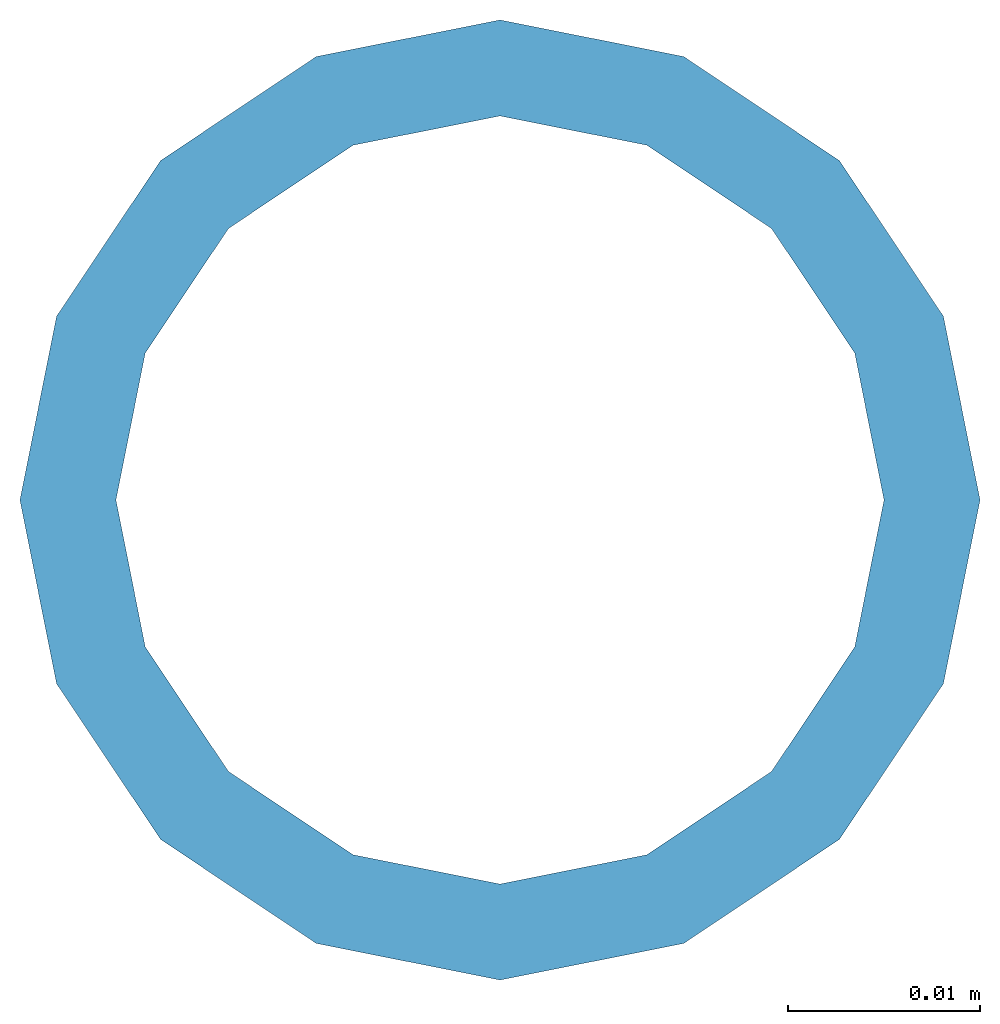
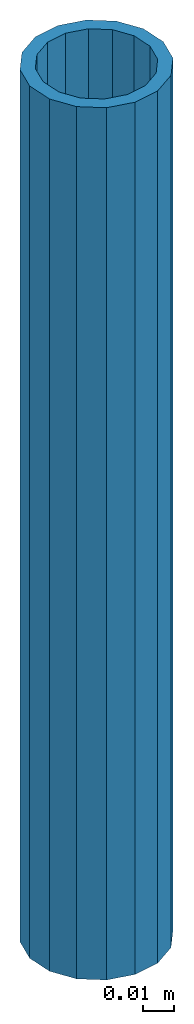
# One storey: 1 column.
"""IFC2X3 building model written with IfcOpenShell, lengths in millimetres."""

import ifcopenshell
import ifcopenshell.guid

model = None  # the IFC model being written
_history = None  # IfcOwnerHistory: only IFC2X3 demands one
_inside = {}  # id of a spatial element -> (the spatial element, [elements in it])
_under = {}  # id of a project, library or spatial element -> (it, [spatial elements below it])
_declared = {}  # id of a project -> (the project, [libraries it declares])
_typed = {}  # id of a type object -> (the type object, [elements of that type])
_made_of = {}  # id of a material, layer set ... -> (it, [elements and type objects made of it])


def new_model(schema):
    """Start an empty IFC model of exactly this schema.

    Asked for "IFC4X3", IfcOpenShell would pick the latest addendum, in which some entities
    have other attributes; the version numbers below select the first issue.
    IFC2X3 requires an IfcOwnerHistory on every rooted entity: one is made here for all.
    """
    global model, _history
    if schema == "IFC4X3":
        model = ifcopenshell.file(schema_version=(4, 3, 0, 0))
    else:
        model = ifcopenshell.file(schema=schema)
    _inside.clear()
    _under.clear()
    _declared.clear()
    _typed.clear()
    _made_of.clear()
    _history = None
    if model.schema == "IFC2X3":
        org = make("IfcOrganization", Name="unknown")
        user = make(
            "IfcPersonAndOrganization",
            ThePerson=make("IfcPerson", FamilyName="unknown"),
            TheOrganization=org,
        )
        app = make(
            "IfcApplication",
            ApplicationDeveloper=org,
            Version="unknown",
            ApplicationFullName="unknown",
            ApplicationIdentifier="unknown",
        )
        _history = make(
            "IfcOwnerHistory",
            OwningUser=user,
            OwningApplication=app,
            ChangeAction="ADDED",
            CreationDate=0,
        )
    return model


def make(cls, **values):
    """One entity of the class cls with the attributes given. An attribute that is None is left unset."""
    return model.create_entity(
        cls, **{name: value for name, value in values.items() if value is not None}
    )


def entity(cls, *values):
    """Any entity or typed value of the class cls, its attributes in the order of the schema. None: left unset."""
    e = model.create_entity(cls)
    for i, value in enumerate(values):
        if value is not None:
            e[i] = value
    return e


def rooted(cls, **values):
    """An entity with a GlobalId (a new one), such as an element, a storey or a relation."""
    return make(cls, GlobalId=ifcopenshell.guid.new(), OwnerHistory=_history, **values)


def si_unit(unit_type, name, prefix=None):
    """IfcSIUnit, for example si_unit("LENGTHUNIT", "METRE", prefix="MILLI")."""
    return make("IfcSIUnit", UnitType=unit_type, Prefix=prefix, Name=name)


def converted_unit(unit_type, name, factor, base, dimensions=None, offset=None):
    """IfcConversionBasedUnit, such as the inch: factor (a typed value) times the base unit."""
    return make(
        "IfcConversionBasedUnit"
        if offset is None
        else "IfcConversionBasedUnitWithOffset",
        ConversionOffset=offset,
        Dimensions=None
        if dimensions is None
        else entity("IfcDimensionalExponents", *dimensions),
        UnitType=unit_type,
        Name=name,
        ConversionFactor=make(
            "IfcMeasureWithUnit", ValueComponent=factor, UnitComponent=base
        ),
    )


def derived_unit(unit_type, elements):
    """IfcDerivedUnit: a product of units, each with its exponent."""
    return make(
        "IfcDerivedUnit",
        Elements=[
            make("IfcDerivedUnitElement", Unit=unit, Exponent=power)
            for unit, power in elements
        ],
        UnitType=unit_type,
    )


def assignment(units):
    """IfcUnitAssignment: the units of a project."""
    return None if units is None else make("IfcUnitAssignment", Units=units)


def point(xyz):
    """IfcCartesianPoint."""
    return None if xyz is None else make("IfcCartesianPoint", Coordinates=xyz)


def direction(xyz):
    """IfcDirection."""
    return None if xyz is None else make("IfcDirection", DirectionRatios=xyz)


def frame(location, z_axis=None, x_axis=None):
    """IfcAxis2Placement3D, a coordinate frame: its origin and axes. An axis left out is left unset."""
    return make(
        "IfcAxis2Placement3D",
        Location=point(location),
        Axis=direction(z_axis),
        RefDirection=direction(x_axis),
    )


def origin_with_axes():
    """The frame at (0, 0, 0) with the z axis (0, 0, 1) and the x axis (1, 0, 0) written out."""
    return frame((0.0, 0.0, 0.0), z_axis=(0.0, 0.0, 1.0), x_axis=(1.0, 0.0, 0.0))


def place(relative_to, where):
    """IfcLocalPlacement: puts the frame where relative to a parent placement (None: the world)."""
    return make(
        "IfcLocalPlacement", PlacementRelTo=relative_to, RelativePlacement=where
    )


def context(
    kind, dimensions, precision=None, world=None, true_north=None, identifier=None
):
    """IfcGeometricRepresentationContext, for example the 3D "Model" context."""
    return make(
        "IfcGeometricRepresentationContext",
        ContextIdentifier=identifier,
        ContextType=kind,
        CoordinateSpaceDimension=dimensions,
        Precision=precision,
        WorldCoordinateSystem=world,
        TrueNorth=true_north,
    )


def subcontext(parent, identifier, kind, view, scale=None):
    """IfcGeometricRepresentationSubContext, for example "Body" below "Model"."""
    return make(
        "IfcGeometricRepresentationSubContext",
        ContextIdentifier=identifier,
        ContextType=kind,
        ParentContext=parent,
        TargetScale=scale,
        TargetView=view,
    )


def project(units=None, contexts=None):
    """IfcProject with its units and contexts."""
    return rooted(
        "IfcProject",
        Name="project",
        RepresentationContexts=contexts,
        UnitsInContext=assignment(units),
    )


def spatial(cls, under=None, at=None, **own):
    """A site, building, storey or space (cls), placed at a placement, below another one or the project."""
    s = rooted(cls, ObjectPlacement=at, **own)
    if under is not None:
        _under.setdefault(under.id(), (under, []))[1].append(s)
    return s


def faces_of(points, faces, orient=None, outer=None):
    """IfcFace entities. A face is a list of loops; a loop is a list of indices into points, from 0.

    orient and outer hold one flag for each loop. By default every Orientation is true, the
    first loop of a face is its IfcFaceOuterBound and the others are IfcFaceBound.
    """
    made = []
    for i, loops in enumerate(faces):
        bounds = []
        for j, loop in enumerate(loops):
            is_outer = j == 0 if outer is None else outer[i][j]
            bounds.append(
                make(
                    "IfcFaceOuterBound" if is_outer else "IfcFaceBound",
                    Bound=make("IfcPolyLoop", Polygon=[points[k] for k in loop]),
                    Orientation=True if orient is None else orient[i][j],
                )
            )
        made.append(make("IfcFace", Bounds=bounds))
    return made


def faceted_brep(points, faces, orient=None, outer=None, voids=None):
    """IfcFacetedBrep: a solid bounded by flat faces; with voids (closed shells), ...WithVoids."""
    shared = [point(p) for p in points]
    hull = make("IfcClosedShell", CfsFaces=faces_of(shared, faces, orient, outer))
    if voids is None:
        return make("IfcFacetedBrep", Outer=hull)
    return make(
        "IfcFacetedBrepWithVoids",
        Outer=hull,
        Voids=[
            make(cls, CfsFaces=faces_of(shared, fs, o, b)) for cls, fs, o, b in voids
        ],
    )


def shape(context_of_items, identifier, shape_type, items):
    """IfcShapeRepresentation: the items that make up one representation, for example the "Body"."""
    return make(
        "IfcShapeRepresentation",
        ContextOfItems=context_of_items,
        RepresentationIdentifier=identifier,
        RepresentationType=shape_type,
        Items=items,
    )


def material(Name=None, Category=None):
    """IfcMaterial."""
    return make("IfcMaterial", Name=Name, Category=Category)


def made_of(thing, what):
    """Note that an element or type object is made of a material, layer set ...; save() writes the relation."""
    if what is not None:
        _made_of.setdefault(what.id(), (what, []))[1].append(thing)
    return thing


def type_object(cls, material=None, **own):
    """A type object (cls), such as IfcWallType, which elements share."""
    return made_of(rooted(cls, **own), material)


def element(
    cls,
    number,
    at=None,
    inside=None,
    cuts=None,
    type_object=None,
    material=None,
    context=None,
    identifier="Body",
    shape_type=None,
    held_by="IfcProductDefinitionShape",
    body=None,
    shapes=None,
    **own,
):
    """One element of the class cls, such as IfcWall. Its Tag is "e" and its number.

    at: its placement. inside: the storey or other place that contains it. cuts: it is an
    opening in that element (IfcRelVoidsElement). A single representation is given by context,
    identifier, shape_type and body (its items); several are given by shapes. held_by: the class
    of the entity that holds the representations. save() writes the other relations.
    """
    e = rooted(cls, Tag="e%d" % number, ObjectPlacement=at, **own)
    if body is not None:
        shapes = [shape(context, identifier, shape_type, body)]
    if shapes is not None:
        e.Representation = make(held_by, Representations=shapes)
    if inside is not None:
        _inside.setdefault(inside.id(), (inside, []))[1].append(e)
    if cuts is not None:
        rooted(
            "IfcRelVoidsElement", RelatingBuildingElement=cuts, RelatedOpeningElement=e
        )
    if type_object is not None:
        _typed.setdefault(type_object.id(), (type_object, []))[1].append(e)
    return made_of(e, material)


def aggregate(whole, parts):
    """IfcRelAggregates: a whole, such as a stair, and the parts it consists of."""
    return rooted("IfcRelAggregates", RelatingObject=whole, RelatedObjects=parts)


def save(model, path):
    """Write the relations noted so far, then the file.

    IfcRelAggregates (storeys below a building ...), IfcRelContainedInSpatialStructure (elements
    in a storey), IfcRelDefinesByType, IfcRelAssociatesMaterial and IfcRelDeclares: one each for
    every whole, place, type object, material and project.
    """
    for whole, parts in _under.values():
        aggregate(whole, parts)
    for where, things in _inside.values():
        rooted(
            "IfcRelContainedInSpatialStructure",
            RelatedElements=things,
            RelatingStructure=where,
        )
    for kind, things in _typed.values():
        rooted("IfcRelDefinesByType", RelatedObjects=things, RelatingType=kind)
    for what, things in _made_of.values():
        rooted("IfcRelAssociatesMaterial", RelatedObjects=things, RelatingMaterial=what)
    for by, libraries in _declared.values():
        rooted("IfcRelDeclares", RelatingContext=by, RelatedDefinitions=libraries)
    model.write(path)


model = new_model("IFC2X3")

# Units and contexts
model_context = context("Model", 3, precision=0.01, world=frame((0.0, 4.29681676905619e-09, 0.0)), true_north=direction((4.01073788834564e-13, 1.0)))
plan_context = context("Plan", 3, precision=0.01, world=frame((0.0, 4.29681676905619e-09, 0.0)), true_north=direction((4.01073788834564e-13, 1.0)))
body_context = subcontext(model_context, "Body", "Model", "MODEL_VIEW")
ifc_project = project(units=[converted_unit("PLANEANGLEUNIT", "DEGREE", entity("IfcPositiveLengthMeasure", 0.0174532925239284), si_unit("PLANEANGLEUNIT", "RADIAN"), dimensions=[0, 0, 0, 0, 0, 0, 0]), si_unit("AREAUNIT", "SQUARE_METRE"), si_unit("LENGTHUNIT", "METRE", prefix="MILLI"), si_unit("MASSUNIT", "GRAM", prefix="KILO"), si_unit("POWERUNIT", "WATT"), si_unit("PRESSUREUNIT", "PASCAL"), si_unit("FORCEUNIT", "NEWTON", prefix="KILO"), si_unit("ELECTRICVOLTAGEUNIT", "VOLT"), si_unit("ELECTRICCURRENTUNIT", "AMPERE"), si_unit("THERMODYNAMICTEMPERATUREUNIT", "DEGREE_CELSIUS"), si_unit("TIMEUNIT", "SECOND"), si_unit("VOLUMEUNIT", "CUBIC_METRE"), derived_unit("LINEARVELOCITYUNIT", [(si_unit("LENGTHUNIT", "METRE"), 1), (si_unit("TIMEUNIT", "SECOND"), -1)]), derived_unit("VOLUMETRICFLOWRATEUNIT", [(si_unit("VOLUMEUNIT", "CUBIC_METRE"), 1), (si_unit("TIMEUNIT", "SECOND"), -1)]), derived_unit("THERMALTRANSMITTANCEUNIT", [(si_unit("POWERUNIT", "WATT"), 1), (si_unit("THERMODYNAMICTEMPERATUREUNIT", "KELVIN"), -1), (si_unit("AREAUNIT", "SQUARE_METRE"), -1)]), derived_unit("SOUNDPRESSUREUNIT", [(si_unit("PRESSUREUNIT", "PASCAL"), 1)])], contexts=[model_context, plan_context])

# Site, building, storey
site_placement = place(None, frame((0.0, -4.29681676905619e-09, 0.0), z_axis=(0.0, 0.0, 1.0), x_axis=(1.0, 0.0, 0.0)))
site = spatial("IfcSite", under=ifc_project, at=site_placement, Name="Gardermoen", CompositionType="ELEMENT")
building_placement = place(site_placement, frame((0.0, 4.29681676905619e-09, 0.0), z_axis=(0.0, 0.0, 1.0), x_axis=(1.0, 0.0, 0.0)))
building = spatial("IfcBuilding", under=site, at=building_placement, Name="TI", CompositionType="ELEMENT")
storey_placement = place(building_placement, origin_with_axes())
storey = spatial("IfcBuildingStorey", under=building, at=storey_placement, Name="D", CompositionType="ELEMENT", Elevation=0.0)

# Column
ifc_material = material(Name="MISCELLANEOUS/Misc_Undefined")
column_type = type_object("IfcColumnType", Name="Ø50*5", PredefinedType="NOTDEFINED")
column_placement = place(storey_placement, frame((601000.0, 689230.0, 210210.0), z_axis=(0.0, -1.0, 0.0), x_axis=(0.0, 0.0, 1.0)))
element("IfcColumn", 1, at=column_placement, inside=storey, type_object=column_type, material=ifc_material, Name="INNSTØPNGODS", ObjectType="Ø50*5", context=body_context, shape_type="Brep", body=[
    faceted_brep([(-3.49245965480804e-10, -20.0, 0.0), (0.0, -18.4775906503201, 7.65366864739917), (345.0, -18.4775906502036, 7.65366864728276), (345.0, -20.0, 0.0), (0.0, -14.1421356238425, 14.1421356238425), (345.0, -14.1421356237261, 14.1421356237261), (0.0, -7.65366864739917, 18.4775906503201), (345.0, -7.65366864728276, 18.4775906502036), (0.0, 0.0, 20.0), (345.0, 0.0, 20.0), (0.0, 7.65366864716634, 18.4775906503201), (345.0, 7.65366864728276, 18.4775906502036), (0.0, 14.1421356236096, 14.1421356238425), (345.0, 14.1421356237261, 14.1421356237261), (0.0, 18.4775906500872, 7.65366864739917), (345.0, 18.4775906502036, 7.65366864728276), (2.3283064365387e-10, 20.0, 0.0), (345.0, 20.0, 0.0), (0.0, 18.4775906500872, -7.65366864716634), (345.0, 18.4775906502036, -7.65366864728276), (0.0, 14.1421356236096, -14.1421356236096), (345.0, 14.1421356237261, -14.1421356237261), (0.0, 7.65366864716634, -18.4775906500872), (345.0, 7.65366864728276, -18.4775906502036), (0.0, 0.0, -20.0), (345.0, 0.0, -20.0), (0.0, -7.65366864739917, -18.4775906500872), (345.0, -7.65366864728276, -18.4775906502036), (0.0, -14.1421356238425, -14.1421356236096), (345.0, -14.1421356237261, -14.1421356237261), (0.0, -18.4775906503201, -7.65366864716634), (345.0, -18.4775906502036, -7.65366864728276), (0.0, -25.0, 0.0), (5.82076609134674e-10, -23.0969883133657, -9.56708581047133), (345.0, -23.0969883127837, -9.56708580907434), (345.0, -25.0, 0.0), (4.65661287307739e-10, -17.677669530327, -17.6776695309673), (345.0, -17.6776695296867, -17.6776695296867), (3.49245965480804e-10, -9.56708580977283, -23.0969883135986), (345.0, -9.56708580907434, -23.0969883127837), (2.3283064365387e-10, -4.65661287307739e-10, -25.0000000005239), (345.0, 0.0, -25.0), (0.0, 9.56708580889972, -23.096988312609), (345.0, 9.56708580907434, -23.0969883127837), (-1.16415321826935e-10, 17.6776695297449, -17.6776695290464), (345.0, 17.6776695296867, -17.6776695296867), (-3.49245965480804e-10, 23.0969883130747, -9.56708580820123), (345.0, 23.0969883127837, -9.56708580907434), (0.0, 25.0, 0.0), (345.0, 25.0, 0.0), (-5.82076609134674e-10, 23.0969883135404, 9.56708581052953), (345.0, 23.0969883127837, 9.56708580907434), (-4.65661287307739e-10, 17.6776695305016, 17.6776695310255), (345.0, 17.6776695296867, 17.6776695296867), (-3.49245965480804e-10, 9.56708580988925, 23.0969883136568), (345.0, 9.56708580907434, 23.0969883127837), (-3.49245965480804e-10, 6.40284270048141e-10, 25.0000000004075), (345.0, 0.0, 25.0), (0.0, -9.5670858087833, 23.0969883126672), (345.0, -9.56708580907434, 23.0969883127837), (1.16415321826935e-10, -17.6776695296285, 17.6776695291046), (345.0, -17.6776695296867, 17.6776695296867), (3.49245965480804e-10, -23.0969883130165, 9.56708580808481), (345.0, -23.0969883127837, 9.56708580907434)], [[[0, 1, 2, 3]], [[1, 4, 5, 2]], [[4, 6, 7, 5]], [[6, 8, 9, 7]], [[8, 10, 11, 9]], [[10, 12, 13, 11]], [[12, 14, 15, 13]], [[14, 16, 17, 15]], [[16, 18, 19, 17]], [[18, 20, 21, 19]], [[20, 22, 23, 21]], [[22, 24, 25, 23]], [[24, 26, 27, 25]], [[26, 28, 29, 27]], [[28, 30, 31, 29]], [[30, 0, 3, 31]], [[32, 33, 34, 35]], [[33, 36, 37, 34]], [[36, 38, 39, 37]], [[38, 40, 41, 39]], [[40, 42, 43, 41]], [[42, 44, 45, 43]], [[44, 46, 47, 45]], [[46, 48, 49, 47]], [[48, 50, 51, 49]], [[50, 52, 53, 51]], [[52, 54, 55, 53]], [[54, 56, 57, 55]], [[56, 58, 59, 57]], [[58, 60, 61, 59]], [[60, 62, 63, 61]], [[62, 32, 35, 63]], [[37, 39, 41, 43, 45, 47, 49, 51, 53, 55, 57, 59, 61, 63, 35, 34], [5, 7, 9, 11, 13, 15, 17, 19, 21, 23, 25, 27, 29, 31, 3, 2]], [[62, 60, 58, 56, 54, 52, 50, 48, 46, 44, 42, 40, 38, 36, 33, 32], [30, 28, 26, 24, 22, 20, 18, 16, 14, 12, 10, 8, 6, 4, 1, 0]]]),
])

save(model, "model.ifc")
